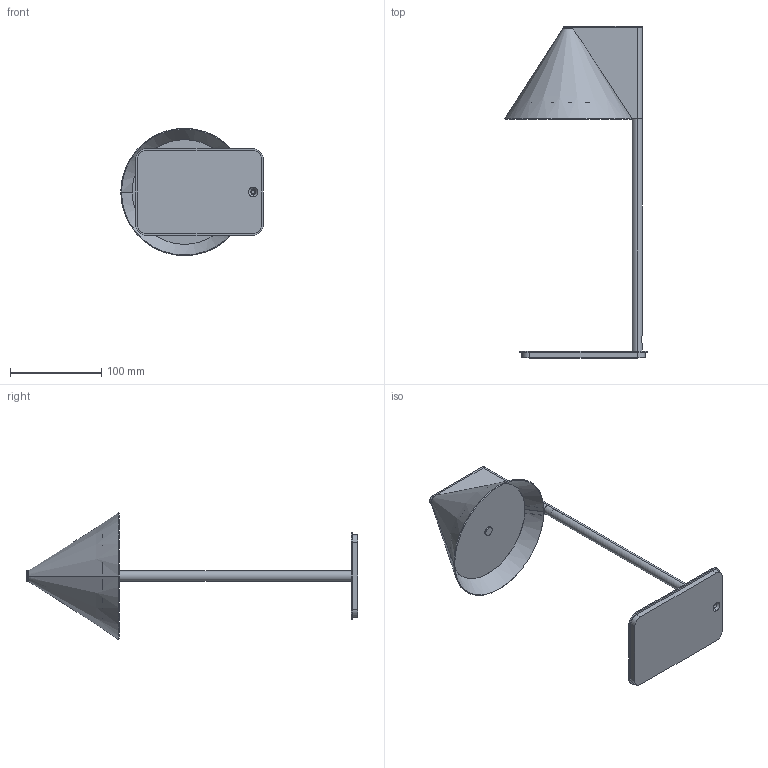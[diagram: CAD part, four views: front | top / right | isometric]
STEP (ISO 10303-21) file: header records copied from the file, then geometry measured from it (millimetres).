
FILE_DESCRIPTION (( 'STEP AP203' ), '1' );
FILE_NAME ('Vela Taula Web.STEP', '2025-10-15T13:06:22', ( '' ), ( '' ), 'SwSTEP 2.0', 'SolidWorks 2013', '' );
FILE_SCHEMA (( 'CONFIG_CONTROL_DESIGN' ));
Length unit declared in the file: millimetre
Products named in the file (13): ME041_Structure table lamp_welded assembly; ME041.04_passamà soldat a ala 2T M3; ME041.01_Ala amb peces soldades; ME041.05_Xapa superior ala 86.5x11 1P M4; MOS05_embellidor 140x95_xapa 1,5; ME041.01_Ala estructura taula; ME040_Base pes + embellidor base soldats; ME042.01_Metal shade Ø140x100xØ11; Vela Taula Web; ME045_Cargol fixació difusor; MOS06_pes base 136x91x6; ME041.02_tub Ø11x255; TC181_PMMA diffuser Ø113x3
Assembly tree (12 placements, depth 4):
  Vela Taula Web
    ME040_Base pes + embellidor base soldats
      MOS06_pes base 136x91x6
      MOS05_embellidor 140x95_xapa 1,5
    ME041_Structure table lamp_welded assembly
      ME041.02_tub Ø11x255
      ME041.01_Ala amb peces soldades
        ME041.01_Ala estructura taula
        ME041.04_passamà soldat a ala 2T M3
        ME041.05_Xapa superior ala 86.5x11 1P M4
    TC181_PMMA diffuser Ø113x3
    ME045_Cargol fixació difusor
    ME042.01_Metal shade Ø140x100xØ11
Bounding box: 156.5 x 364.5 x 140 mm (x, y, z)
Volume: 173912.7 mm3; surface area: 172359.1 mm2
Topology: 9 solids, 9 shells, 124 faces, 287 edges, 182 vertices
Faces by surface type: cylinder 57, plane 47, cone 14, torus 4, bspline 2
Entity records: 5596 total; most frequent: CARTESIAN_POINT 1269, DIRECTION 669, ORIENTED_EDGE 574, EDGE_CURVE 287, AXIS2_PLACEMENT_3D 262, VERTEX_POINT 182, EDGE_LOOP 149, LINE 145
